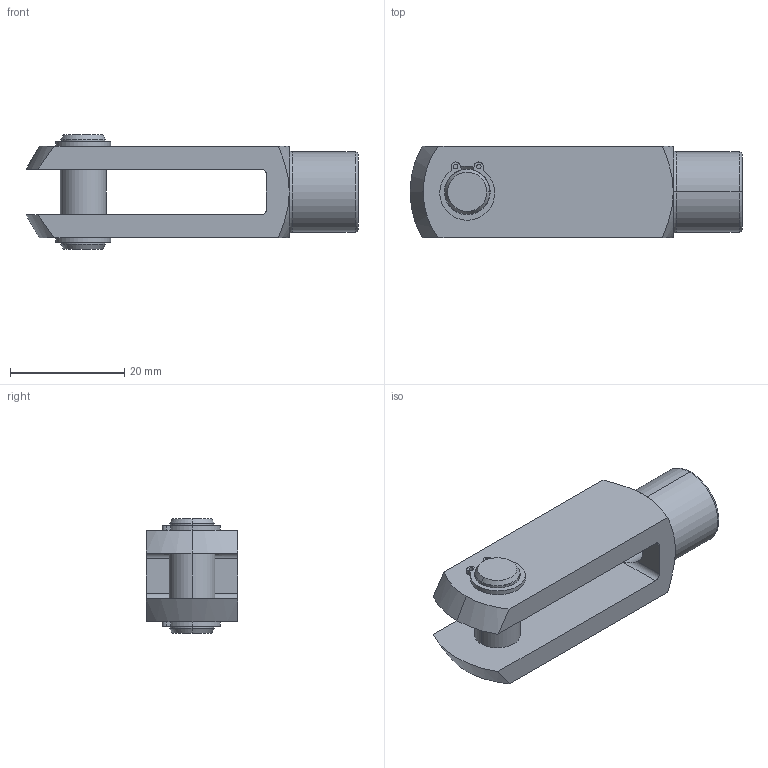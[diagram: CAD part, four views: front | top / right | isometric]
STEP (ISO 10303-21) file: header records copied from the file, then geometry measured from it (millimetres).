
FILE_DESCRIPTION (( 'STEP AP203' ), '1' );
FILE_NAME ('65616.W0084.step', '2014-01-18T10:31:26', ( 'User' ), ( '' ), 'SwSTEP 2.0', 'SolidWorks 2009', '' );
FILE_SCHEMA (( 'CONFIG_CONTROL_DESIGN' ));
Length unit declared in the file: millimetre
Products named in the file (4): Part1_65636.W0084; Part2_65666.W0008; 65616.W0084; Part3_65678.W0008
Assembly tree (4 placements, depth 2):
  65616.W0084
    Part3_65678.W0008  x2
    Part2_65666.W0008
    Part1_65636.W0084
Bounding box: 58 x 16 x 20 mm (x, y, z)
Volume: 7779.6 mm3; surface area: 5499.2 mm2
Topology: 4 solids, 4 shells, 91 faces, 219 edges, 140 vertices
Faces by surface type: cylinder 42, plane 28, cone 17, torus 4
Entity records: 2647 total; most frequent: CARTESIAN_POINT 463, DIRECTION 403, ORIENTED_EDGE 342, EDGE_CURVE 171, AXIS2_PLACEMENT_3D 168, VERTEX_POINT 108, CIRCLE 88, EDGE_LOOP 87
